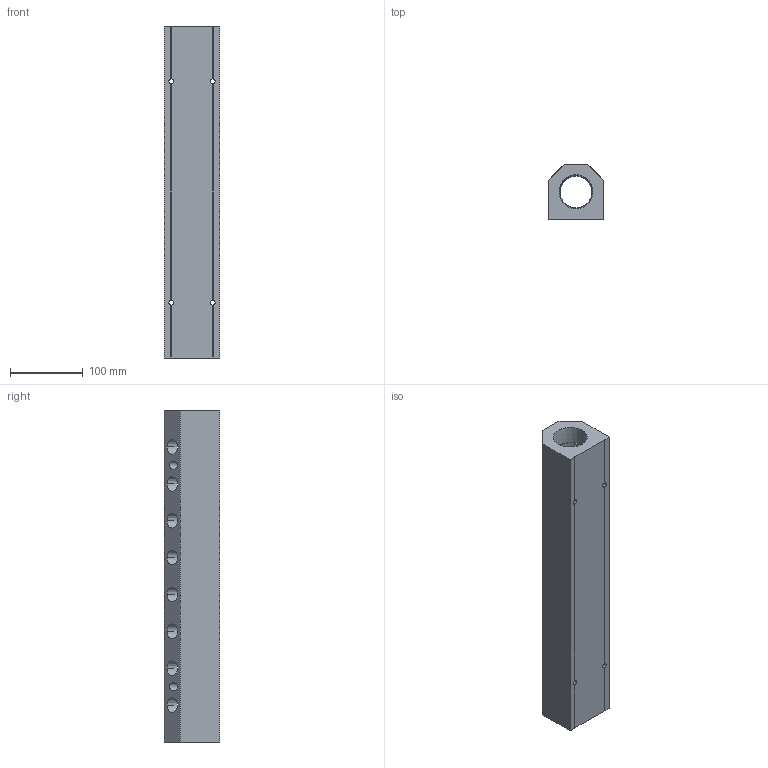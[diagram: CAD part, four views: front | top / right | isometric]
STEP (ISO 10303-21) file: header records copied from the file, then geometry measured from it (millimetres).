
FILE_DESCRIPTION (( 'STEP AP214' ), '1' );
FILE_NAME ('ALM8BD-N8N24-457R.step', '2022-02-07T09:23:36', ( '' ), ( '' ), 'SwSTEP 2.0', 'SolidWorks 2020', '' );
FILE_SCHEMA (( 'AUTOMOTIVE_DESIGN' ));
Length unit declared in the file: millimetre
Products named in the file (1): ALM8BD-N8N24-457R
Bounding box: 76.2 x 76.2 x 457 mm (x, y, z)
Volume: 1620334 mm3; surface area: 211094.5 mm2
Topology: 1 solids, 1 shells, 340 faces, 898 edges, 596 vertices
Faces by surface type: plane 215, bspline 71, cone 36, cylinder 18
Entity records: 19478 total; most frequent: CARTESIAN_POINT 8290, ORIENTED_EDGE 1796, DIRECTION 1316, EDGE_CURVE 898, LINE 640, VECTOR 640, VERTEX_POINT 596, EDGE_LOOP 418
